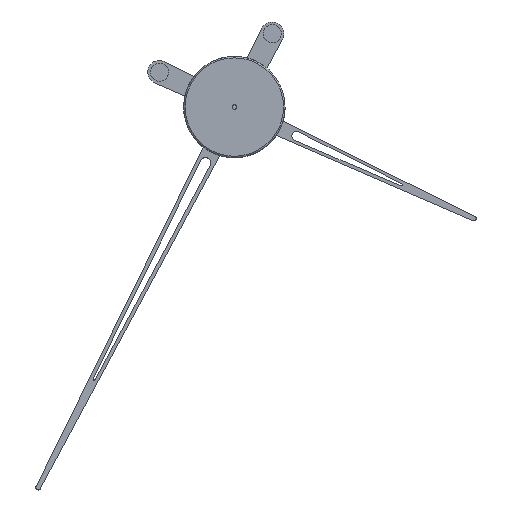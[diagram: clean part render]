
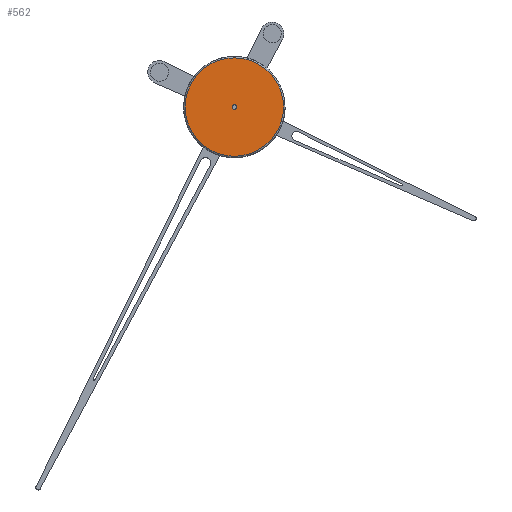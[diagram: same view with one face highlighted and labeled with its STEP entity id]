
A CAD part, front view. The second image highlights one B-rep face of the part: STEP entity #562.
In plain terms, the highlighted planar face has unit normal (0, -1, 0).
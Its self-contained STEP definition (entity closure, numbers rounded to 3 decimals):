
#245 = EDGE_CURVE ( 'NONE', #6077, #3443, #3906, .T. ) ;
#378 = CIRCLE ( 'NONE', #2206, 2. ) ;
#388 = DIRECTION ( 'NONE',  ( 0., 0., 1. ) ) ;
#435 = ORIENTED_EDGE ( 'NONE', *, *, #1540, .T. ) ;
#552 = CARTESIAN_POINT ( 'NONE',  ( 43.3, -19.5, 0. ) ) ;
#562 = ADVANCED_FACE ( 'NONE', ( #3931, #697 ), #3314, .F. ) ;
#612 = DIRECTION ( 'NONE',  ( 0., 1., 0. ) ) ;
#697 = FACE_OUTER_BOUND ( 'NONE', #1623, .T. ) ;
#1403 = DIRECTION ( 'NONE',  ( 0., 0., 1. ) ) ;
#1512 = DIRECTION ( 'NONE',  ( 0., 0., -1. ) ) ;
#1540 = EDGE_CURVE ( 'NONE', #1987, #5917, #378, .T. ) ;
#1623 = EDGE_LOOP ( 'NONE', ( #3439, #4304 ) ) ;
#1640 = DIRECTION ( 'NONE',  ( 0., 0., -1. ) ) ;
#1987 = VERTEX_POINT ( 'NONE', #2150 ) ;
#2062 = DIRECTION ( 'NONE',  ( 0., 0., 1. ) ) ;
#2150 = CARTESIAN_POINT ( 'NONE',  ( 43.3, -19.5, -2. ) ) ;
#2206 = AXIS2_PLACEMENT_3D ( 'NONE', #2339, #2825, #388 ) ;
#2259 = CARTESIAN_POINT ( 'NONE',  ( 43.3, -19.5, 42.3 ) ) ;
#2339 = CARTESIAN_POINT ( 'NONE',  ( 43.3, -19.5, 0. ) ) ;
#2435 = EDGE_CURVE ( 'NONE', #5917, #1987, #4488, .T. ) ;
#2573 = EDGE_CURVE ( 'NONE', #3443, #6077, #3476, .T. ) ;
#2809 = CARTESIAN_POINT ( 'NONE',  ( 1., -19.5, 0. ) ) ;
#2825 = DIRECTION ( 'NONE',  ( 0., 1., 0. ) ) ;
#2834 = AXIS2_PLACEMENT_3D ( 'NONE', #4125, #4144, #1640 ) ;
#3000 = CARTESIAN_POINT ( 'NONE',  ( 43.3, -19.5, 0. ) ) ;
#3314 = PLANE ( 'NONE',  #6206 ) ;
#3439 = ORIENTED_EDGE ( 'NONE', *, *, #245, .T. ) ;
#3443 = VERTEX_POINT ( 'NONE', #2259 ) ;
#3476 = CIRCLE ( 'NONE', #2834, 42.3 ) ;
#3622 = EDGE_LOOP ( 'NONE', ( #4976, #435 ) ) ;
#3906 = CIRCLE ( 'NONE', #5233, 42.3 ) ;
#3931 = FACE_BOUND ( 'NONE', #3622, .T. ) ;
#3973 = DIRECTION ( 'NONE',  ( 0., -1., 0. ) ) ;
#4125 = CARTESIAN_POINT ( 'NONE',  ( 43.3, -19.5, 0. ) ) ;
#4144 = DIRECTION ( 'NONE',  ( 0., -1., 0. ) ) ;
#4304 = ORIENTED_EDGE ( 'NONE', *, *, #2573, .T. ) ;
#4365 = DIRECTION ( 'NONE',  ( 0., 1., 0. ) ) ;
#4422 = CARTESIAN_POINT ( 'NONE',  ( 43.3, -19.5, -42.3 ) ) ;
#4488 = CIRCLE ( 'NONE', #5779, 2. ) ;
#4915 = CARTESIAN_POINT ( 'NONE',  ( 43.3, -19.5, 2. ) ) ;
#4976 = ORIENTED_EDGE ( 'NONE', *, *, #2435, .T. ) ;
#5233 = AXIS2_PLACEMENT_3D ( 'NONE', #552, #3973, #1512 ) ;
#5779 = AXIS2_PLACEMENT_3D ( 'NONE', #3000, #612, #2062 ) ;
#5917 = VERTEX_POINT ( 'NONE', #4915 ) ;
#6077 = VERTEX_POINT ( 'NONE', #4422 ) ;
#6206 = AXIS2_PLACEMENT_3D ( 'NONE', #2809, #4365, #1403 ) ;
